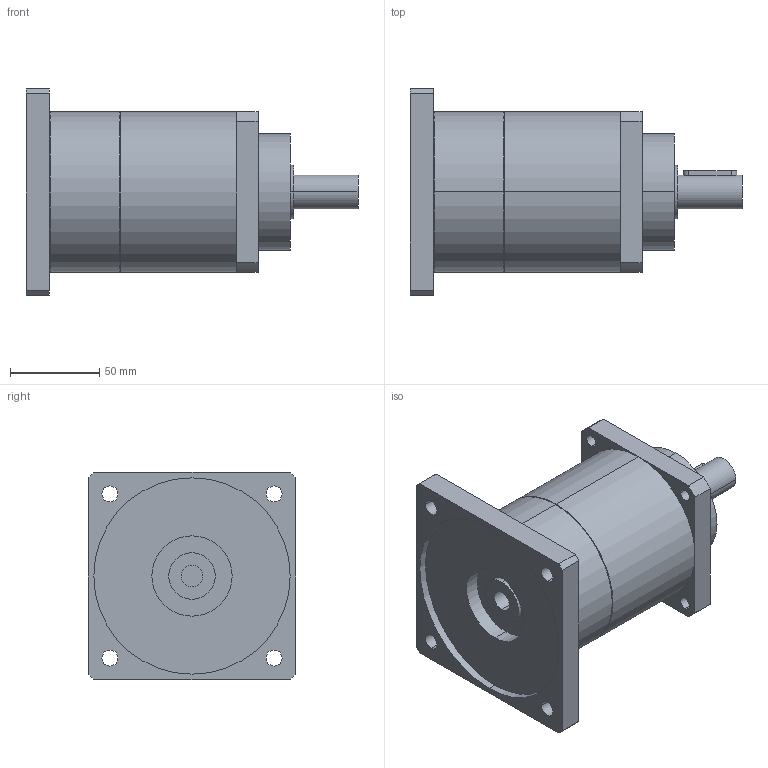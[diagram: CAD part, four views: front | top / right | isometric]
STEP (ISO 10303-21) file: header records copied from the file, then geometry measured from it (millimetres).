
FILE_DESCRIPTION(('CoCreate Modeling STEP Export'),'2;1');
FILE_NAME('GPT90_ig-9-12-16-20-25-28-35-40-50-70-100_19_B5T_12_P08.stp','2015-02-04T11:28:16',(''),(''),'CoCreate Modeling STEP processor for AP214 (Solid Model)','CoCreate Modeling 16.00C 25-Feb-2009 (C) Parametric Technology GmbH','');
FILE_SCHEMA(('AUTOMOTIVE_DESIGN { 1 0 10303 214 1 1 1 1 }'));
Length unit declared in the file: millimetre
Products named in the file (2): GPT90_ig-9-12-16-20-25-28-35-40-50-70-100_19_B5T_12_P08
Assembly tree (1 placements, depth 2):
  GPT90_ig-9-12-16-20-25-28-35-40-50-70-100_19_B5T_12_P08
    GPT90_ig-9-12-16-20-25-28-35-40-50-70-100_19_B5T_12_P08
Bounding box: 186 x 116 x 116 mm (x, y, z)
Volume: 946724.9 mm3; surface area: 82982.9 mm2
Topology: 1 solids, 1 shells, 77 faces, 207 edges, 142 vertices
Faces by surface type: cylinder 46, plane 27, cone 4
Entity records: 2601 total; most frequent: CARTESIAN_POINT 743, ORIENTED_EDGE 414, DIRECTION 324, EDGE_CURVE 207, VERTEX_POINT 142, AXIS2_PLACEMENT_3D 120, EDGE_LOOP 103, VECTOR 84
